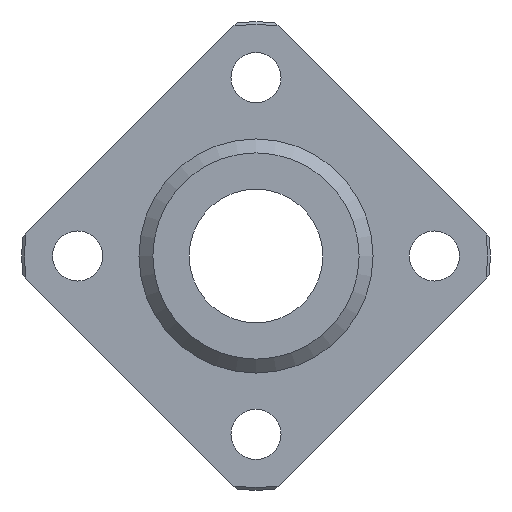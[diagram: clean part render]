
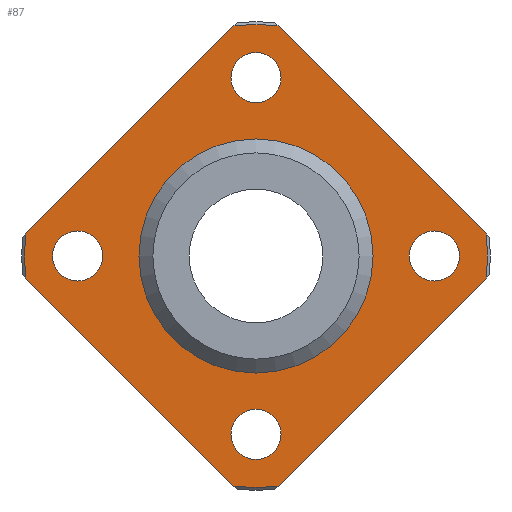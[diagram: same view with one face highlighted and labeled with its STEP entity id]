
A CAD part, left-side view. The second image highlights one B-rep face of the part: STEP entity #87.
In plain terms, the highlighted planar face has unit normal (-1, 0, 0).
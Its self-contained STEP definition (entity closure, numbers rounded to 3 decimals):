
#87=ADVANCED_FACE('',(#141,#142,#143,#144,#145,#146),#147,.F.);
#141=FACE_OUTER_BOUND('',#244,.T.);
#142=FACE_BOUND('',#245,.T.);
#143=FACE_BOUND('',#246,.T.);
#144=FACE_BOUND('',#247,.T.);
#145=FACE_BOUND('',#248,.T.);
#146=FACE_BOUND('',#249,.T.);
#147=PLANE('',#250);
#244=EDGE_LOOP('',(#403,#404,#405,#406,#407,#408,#409,#410));
#245=EDGE_LOOP('',(#411));
#246=EDGE_LOOP('',(#412));
#247=EDGE_LOOP('',(#413));
#248=EDGE_LOOP('',(#414));
#249=EDGE_LOOP('',(#415));
#250=AXIS2_PLACEMENT_3D('',#416,#417,#418);
#403=ORIENTED_EDGE('',*,*,#615,.T.);
#404=ORIENTED_EDGE('',*,*,#616,.T.);
#405=ORIENTED_EDGE('',*,*,#598,.T.);
#406=ORIENTED_EDGE('',*,*,#589,.T.);
#407=ORIENTED_EDGE('',*,*,#593,.T.);
#408=ORIENTED_EDGE('',*,*,#617,.T.);
#409=ORIENTED_EDGE('',*,*,#601,.T.);
#410=ORIENTED_EDGE('',*,*,#578,.T.);
#411=ORIENTED_EDGE('',*,*,#612,.T.);
#412=ORIENTED_EDGE('',*,*,#614,.T.);
#413=ORIENTED_EDGE('',*,*,#618,.T.);
#414=ORIENTED_EDGE('',*,*,#619,.T.);
#415=ORIENTED_EDGE('',*,*,#620,.T.);
#416=CARTESIAN_POINT('',(-9.0,20.746,0.0));
#417=DIRECTION('',(1.0,0.0,0.0));
#418=DIRECTION('',(0.0,0.0,-1.0));
#578=EDGE_CURVE('',#655,#653,#656,.T.);
#589=EDGE_CURVE('',#676,#674,#677,.T.);
#593=EDGE_CURVE('',#674,#683,#684,.T.);
#598=EDGE_CURVE('',#692,#676,#693,.T.);
#601=EDGE_CURVE('',#697,#655,#698,.T.);
#612=EDGE_CURVE('',#716,#716,#717,.T.);
#614=EDGE_CURVE('',#720,#720,#721,.T.);
#615=EDGE_CURVE('',#653,#722,#723,.T.);
#616=EDGE_CURVE('',#722,#692,#724,.T.);
#617=EDGE_CURVE('',#683,#697,#725,.T.);
#618=EDGE_CURVE('',#726,#726,#727,.T.);
#619=EDGE_CURVE('',#728,#728,#729,.T.);
#620=EDGE_CURVE('',#730,#730,#731,.T.);
#653=VERTEX_POINT('',#786);
#655=VERTEX_POINT('',#791);
#656=LINE('',#792,#793);
#674=VERTEX_POINT('',#826);
#676=VERTEX_POINT('',#831);
#677=LINE('',#832,#833);
#683=VERTEX_POINT('',#846);
#684=CIRCLE('',#847,20.746);
#692=VERTEX_POINT('',#858);
#693=CIRCLE('',#859,20.746);
#697=VERTEX_POINT('',#866);
#698=CIRCLE('',#867,20.746);
#716=VERTEX_POINT('',#894);
#717=CIRCLE('',#895,2.25);
#720=VERTEX_POINT('',#898);
#721=CIRCLE('',#899,2.25);
#722=VERTEX_POINT('',#900);
#723=CIRCLE('',#901,20.746);
#724=LINE('',#902,#903);
#725=LINE('',#904,#905);
#726=VERTEX_POINT('',#906);
#727=CIRCLE('',#907,2.25);
#728=VERTEX_POINT('',#908);
#729=CIRCLE('',#909,2.25);
#730=VERTEX_POINT('',#910);
#731=CIRCLE('',#911,10.5);
#786=CARTESIAN_POINT('',(-9.0,20.652,1.976));
#791=CARTESIAN_POINT('',(-9.0,1.976,20.652));
#792=CARTESIAN_POINT('',(-9.0,21.687,0.941));
#793=VECTOR('',#968,1.0);
#826=CARTESIAN_POINT('',(-9.0,-20.652,-1.976));
#831=CARTESIAN_POINT('',(-9.0,-1.976,-20.652));
#832=CARTESIAN_POINT('',(-9.0,-0.941,-21.687));
#833=VECTOR('',#978,1.0);
#846=CARTESIAN_POINT('',(-9.0,-20.652,1.976));
#847=AXIS2_PLACEMENT_3D('',#980,#981,#982);
#858=CARTESIAN_POINT('',(-9.0,1.976,-20.652));
#859=AXIS2_PLACEMENT_3D('',#992,#993,#994);
#866=CARTESIAN_POINT('',(-9.0,-1.976,20.652));
#867=AXIS2_PLACEMENT_3D('',#998,#999,#1000);
#894=CARTESIAN_POINT('',(-9.0,0.0,13.75));
#895=AXIS2_PLACEMENT_3D('',#1022,#1023,#1024);
#898=CARTESIAN_POINT('',(-9.0,16.0,-2.25));
#899=AXIS2_PLACEMENT_3D('',#1028,#1029,#1030);
#900=CARTESIAN_POINT('',(-9.0,20.652,-1.976));
#901=AXIS2_PLACEMENT_3D('',#1031,#1032,#1033);
#902=CARTESIAN_POINT('',(-9.0,21.687,-0.941));
#903=VECTOR('',#1034,1.0);
#904=CARTESIAN_POINT('',(-9.0,-0.941,21.687));
#905=VECTOR('',#1035,1.0);
#906=CARTESIAN_POINT('',(-9.0,0.0,-18.25));
#907=AXIS2_PLACEMENT_3D('',#1036,#1037,#1038);
#908=CARTESIAN_POINT('',(-9.0,-16.0,-2.25));
#909=AXIS2_PLACEMENT_3D('',#1039,#1040,#1041);
#910=CARTESIAN_POINT('',(-9.0,0.,-10.5));
#911=AXIS2_PLACEMENT_3D('',#1042,#1043,#1044);
#968=DIRECTION('',(0.0,0.707,-0.707));
#978=DIRECTION('',(0.0,-0.707,0.707));
#980=CARTESIAN_POINT('',(-9.0,0.0,0.0));
#981=DIRECTION('',(-1.0,0.0,0.0));
#982=DIRECTION('',(0.0,0.0,1.0));
#992=CARTESIAN_POINT('',(-9.0,0.0,0.0));
#993=DIRECTION('',(-1.0,0.0,0.0));
#994=DIRECTION('',(0.0,0.0,1.0));
#998=CARTESIAN_POINT('',(-9.0,0.0,0.0));
#999=DIRECTION('',(-1.0,0.0,0.0));
#1000=DIRECTION('',(0.0,0.0,1.0));
#1022=CARTESIAN_POINT('',(-9.0,0.0,16.0));
#1023=DIRECTION('',(1.0,0.0,0.0));
#1024=DIRECTION('',(0.0,0.0,-1.0));
#1028=CARTESIAN_POINT('',(-9.0,16.0,0.0));
#1029=DIRECTION('',(1.0,0.0,0.0));
#1030=DIRECTION('',(0.0,0.0,-1.0));
#1031=CARTESIAN_POINT('',(-9.0,0.0,0.0));
#1032=DIRECTION('',(-1.0,0.0,0.0));
#1033=DIRECTION('',(0.0,0.0,1.0));
#1034=DIRECTION('',(0.0,-0.707,-0.707));
#1035=DIRECTION('',(0.0,0.707,0.707));
#1036=CARTESIAN_POINT('',(-9.0,0.0,-16.0));
#1037=DIRECTION('',(1.0,0.0,0.0));
#1038=DIRECTION('',(0.0,0.0,-1.0));
#1039=CARTESIAN_POINT('',(-9.0,-16.0,0.0));
#1040=DIRECTION('',(1.0,0.0,0.0));
#1041=DIRECTION('',(0.0,0.0,-1.0));
#1042=CARTESIAN_POINT('',(-9.0,0.,0.));
#1043=DIRECTION('',(1.0,0.0,0.0));
#1044=DIRECTION('',(0.0,0.0,-1.0));
